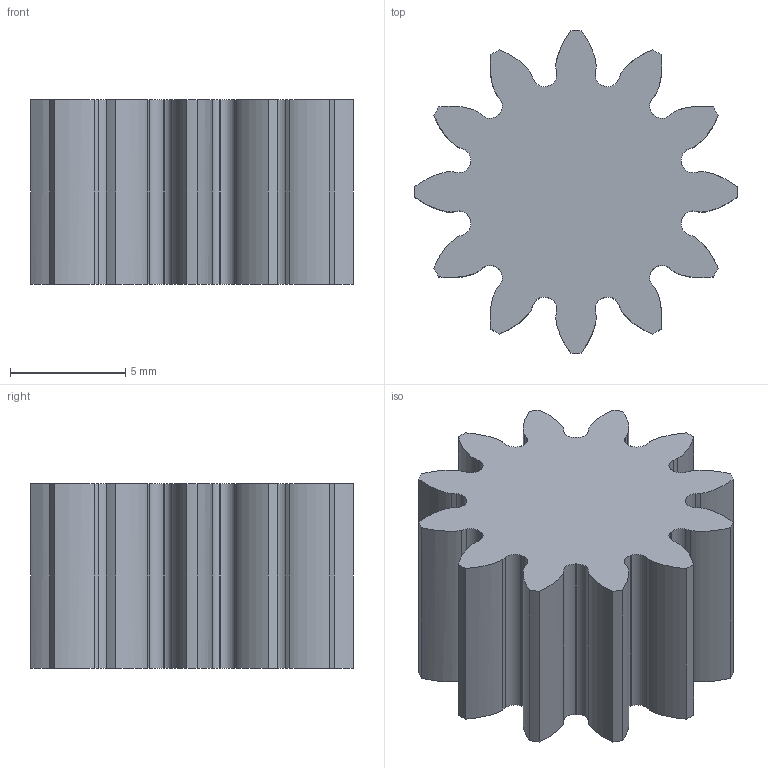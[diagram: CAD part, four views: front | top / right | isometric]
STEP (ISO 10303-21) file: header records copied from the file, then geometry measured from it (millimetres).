
FILE_DESCRIPTION(/* description */ (''),/* implementation_level */ '2;1');
FILE_NAME(/* name */ 'C:/Users/Brandon/Desktop/gears 25deg mod1 fillet.5/12t.step',/* time_stamp */ '2018-01-03T17:37:34-06:00',/* author */ (''),/* organization */ (''),/* preprocessor_version */ 'ST-DEVELOPER v16.13',/* originating_system */ 'Autodesk Translation Framework v6.5.0.72',/* authorisation */ '');
FILE_SCHEMA (('AUTOMOTIVE_DESIGN { 1 0 10303 214 3 1 1 }'));
Length unit declared in the file: millimetre
Products named in the file (2): (Unsaved); Spur Gear (12 teeth)
Assembly tree (1 placements, depth 2):
  (Unsaved)
    Spur Gear (12 teeth)
Bounding box: 14 x 14 x 8 mm (x, y, z)
Volume: 878.8 mm3; surface area: 792.5 mm2
Topology: 1 solids, 1 shells, 98 faces, 288 edges, 192 vertices
Faces by surface type: cylinder 48, plane 26, bspline 24
Entity records: 10229 total; most frequent: CARTESIAN_POINT 7709, ORIENTED_EDGE 576, DIRECTION 490, EDGE_CURVE 288, VERTEX_POINT 192, AXIS2_PLACEMENT_3D 173, LINE 144, VECTOR 144
